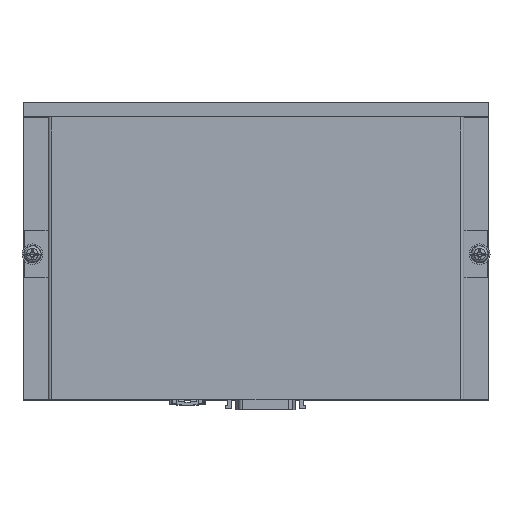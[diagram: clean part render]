
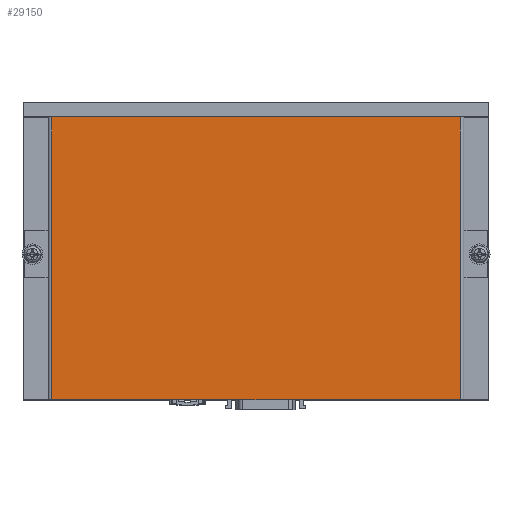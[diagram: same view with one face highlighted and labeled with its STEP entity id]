
A CAD part, top view. The second image highlights one B-rep face of the part: STEP entity #29150.
In plain terms, the highlighted planar face has unit normal (0, 0, 1).
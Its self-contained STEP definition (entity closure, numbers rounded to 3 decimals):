
#66 = VERTEX_POINT ( 'NONE', #45736 ) ;
#711 = ORIENTED_EDGE ( 'NONE', *, *, #65258, .T. ) ;
#2064 = EDGE_CURVE ( 'NONE', #16870, #39350, #14867, .T. ) ;
#4640 = CARTESIAN_POINT ( 'NONE',  ( 0., 95.5, 0. ) ) ;
#5277 = CARTESIAN_POINT ( 'NONE',  ( 1.2, 0., 0. ) ) ;
#5858 = CARTESIAN_POINT ( 'NONE',  ( 139.2, 0., 0. ) ) ;
#7601 = LINE ( 'NONE', #4640, #21683 ) ;
#14867 = LINE ( 'NONE', #22247, #41398 ) ;
#15575 = VECTOR ( 'NONE', #43441, 1000. ) ;
#16394 = DIRECTION ( 'NONE',  ( 0., 1., 0. ) ) ;
#16870 = VERTEX_POINT ( 'NONE', #61454 ) ;
#17462 = VECTOR ( 'NONE', #16394, 1000. ) ;
#18884 = VERTEX_POINT ( 'NONE', #5858 ) ;
#21683 = VECTOR ( 'NONE', #47119, 1000. ) ;
#21730 = CARTESIAN_POINT ( 'NONE',  ( 139.2, 0., 0. ) ) ;
#22247 = CARTESIAN_POINT ( 'NONE',  ( 1.2, 0., 0. ) ) ;
#25316 = AXIS2_PLACEMENT_3D ( 'NONE', #60506, #28678, #65810 ) ;
#25551 = ORIENTED_EDGE ( 'NONE', *, *, #2064, .T. ) ;
#28678 = DIRECTION ( 'NONE',  ( 0., 0., 1. ) ) ;
#29150 = ADVANCED_FACE ( 'NONE', ( #68469 ), #49885, .T. ) ;
#30464 = ORIENTED_EDGE ( 'NONE', *, *, #64161, .T. ) ;
#31321 = ORIENTED_EDGE ( 'NONE', *, *, #48691, .F. ) ;
#32413 = DIRECTION ( 'NONE',  ( 0., -1., 0. ) ) ;
#38034 = CARTESIAN_POINT ( 'NONE',  ( 0., 0., 0. ) ) ;
#39350 = VERTEX_POINT ( 'NONE', #5277 ) ;
#41398 = VECTOR ( 'NONE', #32413, 1000. ) ;
#43441 = DIRECTION ( 'NONE',  ( 1., 0., 0. ) ) ;
#45736 = CARTESIAN_POINT ( 'NONE',  ( 139.2, 95.5, 0. ) ) ;
#47119 = DIRECTION ( 'NONE',  ( 1., 0., 0. ) ) ;
#48691 = EDGE_CURVE ( 'NONE', #16870, #66, #7601, .T. ) ;
#49885 = PLANE ( 'NONE',  #25316 ) ;
#57884 = LINE ( 'NONE', #38034, #15575 ) ;
#57953 = EDGE_LOOP ( 'NONE', ( #30464, #711, #31321, #25551 ) ) ;
#59774 = LINE ( 'NONE', #21730, #17462 ) ;
#60506 = CARTESIAN_POINT ( 'NONE',  ( 0., 0., 0. ) ) ;
#61454 = CARTESIAN_POINT ( 'NONE',  ( 1.2, 95.5, 0. ) ) ;
#64161 = EDGE_CURVE ( 'NONE', #39350, #18884, #57884, .T. ) ;
#65258 = EDGE_CURVE ( 'NONE', #18884, #66, #59774, .T. ) ;
#65810 = DIRECTION ( 'NONE',  ( 1., 0., 0. ) ) ;
#68469 = FACE_OUTER_BOUND ( 'NONE', #57953, .T. ) ;
